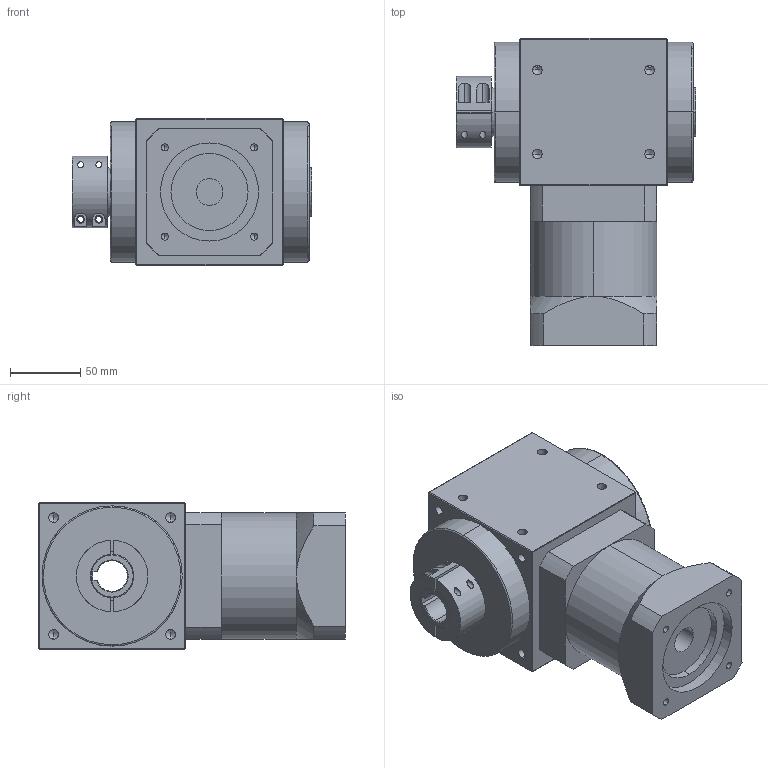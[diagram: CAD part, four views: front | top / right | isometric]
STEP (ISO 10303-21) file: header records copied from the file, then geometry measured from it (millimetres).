
FILE_DESCRIPTION (( 'STEP AP214' ), '1' );
FILE_NAME ('PAW105A-L1-2C-K(3-10) 19-70-90-M6.STEP', '2020-12-05T09:46:16', ( '微软用户' ), ( '微软中国' ), 'SwSTEP 2.0', 'SolidWorks 2014', '' );
FILE_SCHEMA (( 'AUTOMOTIVE_DESIGN' ));
Length unit declared in the file: millimetre
Products named in the file (5): 105標杶_1; RXW105A-L1-2C-K--22-110-145-m8_1; PAW105A-L1-2C-K(3-10) 19-70-90-M6
Assembly tree (2 placements, depth 2):
  105標杶_1
  PAW105A-L1-2C-K(3-10) 19-70-90-M6
    RXW105A-L1-2C-K--22-110-145-m8_1
    105標杶_1
  RXW105A-L1-2C-K--22-110-145-m8_1
Bounding box: 171 x 219 x 105 mm (x, y, z)
Volume: 2172678.8 mm3; surface area: 171262.2 mm2
Topology: 4 solids, 4 shells, 239 faces, 586 edges, 336 vertices
Faces by surface type: cylinder 107, plane 72, cone 56, bspline 4
Entity records: 9970 total; most frequent: CARTESIAN_POINT 1737, DIRECTION 1191, ORIENTED_EDGE 1076, EDGE_CURVE 538, AXIS2_PLACEMENT_3D 462, VERTEX_POINT 336, EDGE_LOOP 294, VECTOR 267
